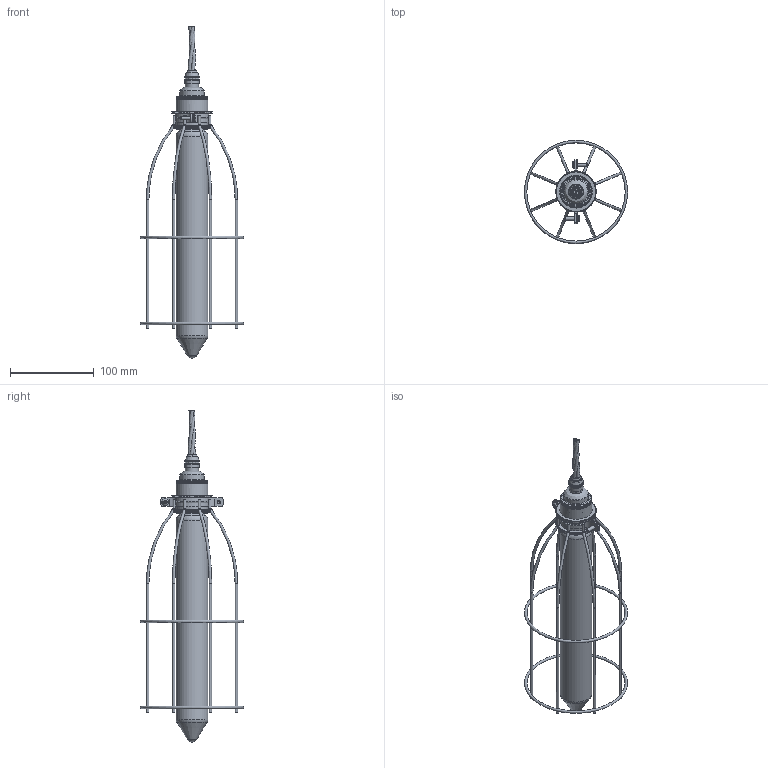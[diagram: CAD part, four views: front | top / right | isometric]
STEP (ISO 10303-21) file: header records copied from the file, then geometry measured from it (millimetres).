
FILE_DESCRIPTION(/* description */ (' Lamp top 10mm Bronze'),/* implementation_level */ '2;1');
FILE_NAME(/* name */ 'D:\David\My Dropbox\Eddison Style Lighting\3D Files\Long Light bulb plated cage fitting 10 inch.stp',/* time_stamp */ '2013-10-22T18:02:54+11:00',/* author */ ('DavidG'),/* organization */ (''),/* preprocessor_version */ 'ST-DEVELOPER v15.2',/* originating_system */ 'Autodesk Inventor 2014',/* authorisation */ '');
FILE_SCHEMA (('AUTOMOTIVE_DESIGN { 1 0 10303 214 3 1 1 }'));
Length unit declared in the file: millimetre
Products named in the file (23): 7600ETH Lamp Top Pendant Cord Grip OE Brass; 760ETH Lamp Holder OE Brass; E27 holder; Globe Connector; Globe Connector 1; Globe Connector 2; 3200-H Cable Grip Clamp; 3200-H Cable Grip Collet OE Brass; ES1H Shade Ring E27 OE Brass; Cage Clamp Long; Cage Ring Long; Cage Screw Long; Cage bar Long; Long Light bulb plated cage fitting 10 inch; Wire 3 Core Twisted; Wire Center; 245V 60W E27 460 Lumen 1500H; E27 lightThread; Soffitten 38x310 KL Filament
Bounding box: 123 x 123 x 395.36 mm (x, y, z)
Volume: 93935.3 mm3; surface area: 138590.3 mm2
Topology: 33 solids, 34 shells, 1639 faces, 4103 edges, 2542 vertices
Faces by surface type: cylinder 825, torus 553, plane 219, cone 23, bspline 15, sphere 4
Full cylindrical faces by diameter (mm): 0.695 x3, 1 x2, 2 x4, 2.048 x3, 3 x16, 3.145 x1, 3.57 x1, 3.679 x2, 4 x6, 8 x2, 12.5 x1, 13.7 x1, 14.7 x1, 15.6 x1, 15.7 x1, 16.7 x1, 24 x1, 24.5 x1, 25 x1, 27 x2, 27.4 x1, 29 x1, 31.8 x1, 32.7 x1, 34 x1, 34.3 x1, 36 x4, 38 x4
Entity records: 50409 total; most frequent: CARTESIAN_POINT 21746, ORIENTED_EDGE 5996, DIRECTION 5830, EDGE_CURVE 2998, AXIS2_PLACEMENT_3D 2488, VERTEX_POINT 1909, EDGE_LOOP 1345, ADVANCED_FACE 1218
